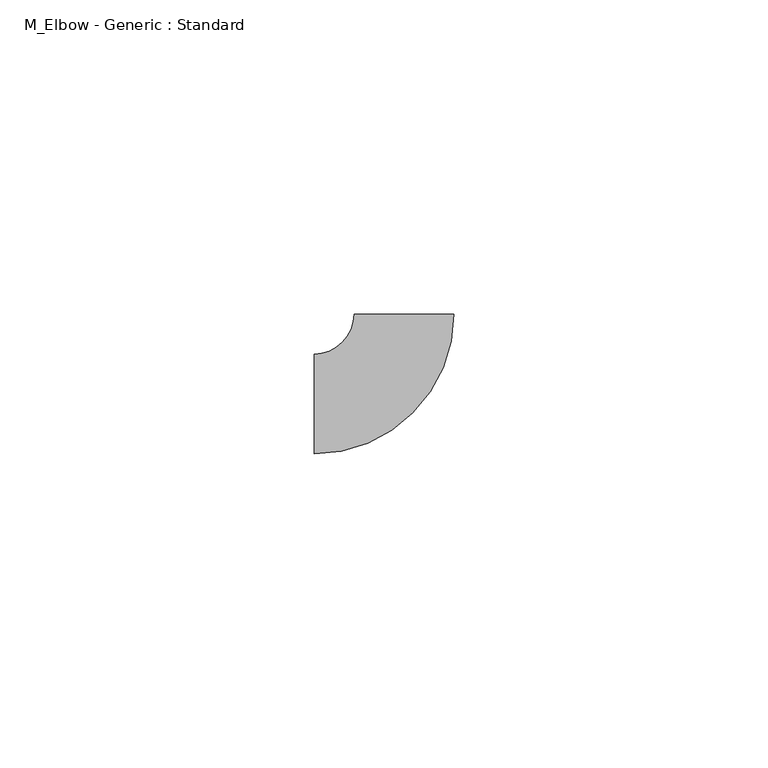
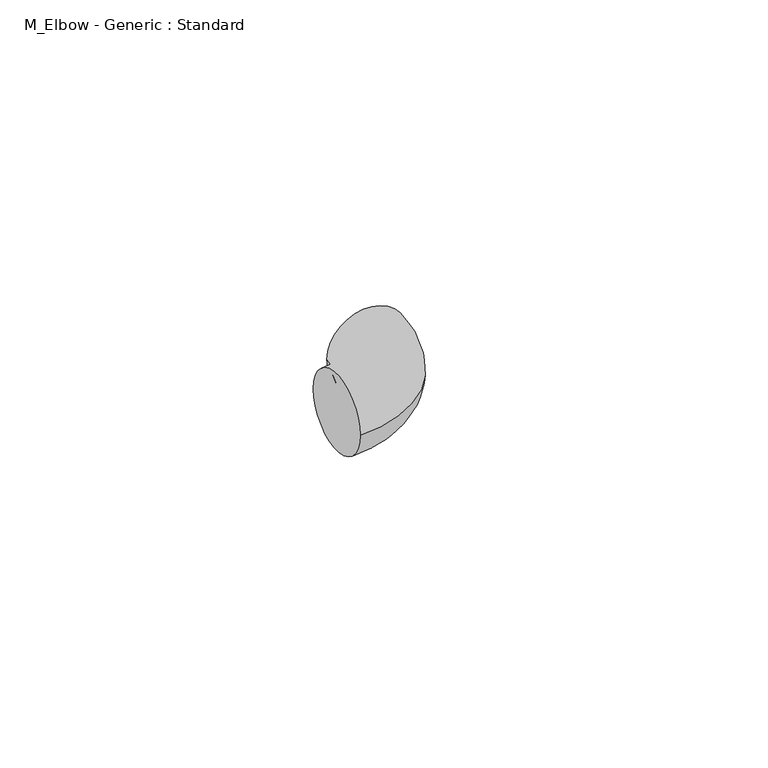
"""IFC4 building model written with IfcOpenShell, lengths in millimetres: pipe fitting geometry, M_Elbow - Generic : Standard."""

from ifc_helpers import new_model, si_unit, point, frame, origin, place, context, project, spatial, circle_curve, ellipse_curve, trimmed, source, transform, mapped, element, save
from ifc_brep_helpers import plane_surface, revolved_surface, advanced_brep


def m_elbow_generic_standard_4cd29557(model_context):
    return source(origin(), model_context, "Body", "AdvancedBrep", [
        advanced_brep(
        [(-14.2857142, -7.9375, 0.0), (-14.2857142, 7.9375, 0.0), (7.9392857, 14.2847219, 0.0), (-7.9357142, 14.2867062, 0.0)],
        [
            (0, 1, circle_curve(frame((-14.2857142, 0.0, 0.0), z_axis=(-1.0, 0.0, 0.0), x_axis=(0.0, 1.0, 0.0)), 7.9375)),
            (1, 0, circle_curve(frame((-14.2857142, 0.0, 0.0), z_axis=(-1.0, 0.0, 0.0), x_axis=(0.0, 1.0, 0.0)), 7.9375)),
            (2, 3, circle_curve(frame((0.0017857, 14.2857141, 0.0), z_axis=(0.00012500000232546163, 0.9999999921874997, 0.0), x_axis=(-0.9999999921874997, 0.00012500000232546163, 0.0)), 7.9375)),
            (3, 2, circle_curve(frame((0.0017857, 14.2857141, 0.0), z_axis=(0.00012500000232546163, 0.9999999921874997, 0.0), x_axis=(-0.9999999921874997, 0.00012500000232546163, 0.0)), 7.9375)),
            (3, 1, circle_curve(frame((-14.2857142, 14.2875, 0.0), z_axis=(0.0, 0.0, -1.0), x_axis=(0.0, -1.0, 0.0)), 6.35)),
            (0, 2, circle_curve(frame((-14.2857142, 14.2875, 0.0), z_axis=(0.0, 0.0, 1.0), x_axis=(0.0, -1.0, 0.0)), 22.225)),
        ],
        [
            plane_surface(frame((-14.2857142, 0.0, 0.0), z_axis=(-1.0, 0.0, 0.0), x_axis=(0.0, 0.0, 1.0))),
            plane_surface(frame((0.0017857, 14.2857141, 0.0), z_axis=(0.0001250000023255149, 0.9999999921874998, 0.0), x_axis=(0.0, 0.0, 1.0))),
            revolved_surface(trimmed(ellipse_curve(frame((-14.2857142, 0.0, 0.0), z_axis=(-1.0, 0.0, 0.0), x_axis=(0.0, 1.0, 0.0)), 7.9375, 7.9375), [point((-14.2857142, -7.9375, 0.0))], [point((-14.2857142, 7.9375, 0.0))], True, "CARTESIAN"), (-14.2857142, 14.2875, 0.0), (0.0, 0.0, 1.0)),
            revolved_surface(trimmed(ellipse_curve(frame((-14.2857142, 0.0, 0.0), z_axis=(-1.0, 0.0, 0.0), x_axis=(0.0, 1.0, 0.0)), 7.9375, 7.9375), [point((-14.2857142, 7.9375, 0.0))], [point((-14.2857142, -7.9375, 0.0))], True, "CARTESIAN"), (-14.2857142, 14.2875, 0.0), (0.0, 0.0, 1.0)),
        ],
        [
            (0, [[1, 2]]),
            (1, [[3, 4]]),
            (2, [[5, -1, 6, -4]]),
            (3, [[-6, -2, -5, -3]]),
        ],
    ),
    ])


if __name__ == "__main__":
    model = new_model("IFC4")
    model_context = context("Model", 3, world=origin())
    ifc_project = project(units=[si_unit("LENGTHUNIT", "METRE", prefix="MILLI")], contexts=[model_context])
    site = spatial("IfcSite", under=ifc_project)
    building = spatial("IfcBuilding", under=site)
    placement = place(None, origin())
    m_elbow_generic_standard_shape = m_elbow_generic_standard_4cd29557(model_context)
    element("IfcPipeFitting", 1, ObjectType="M_Elbow - Generic : Standard", at=placement, inside=building, context=model_context, shape_type="MappedRepresentation", body=[
        mapped(m_elbow_generic_standard_shape, transform((0.0, 0.0, 0.0), x_axis=(1.0, 0.0, 0.0), y_axis=(0.0, 1.0, 0.0), z_axis=(0.0, 0.0, 1.0))),
    ])
    save(model, "model.ifc")
